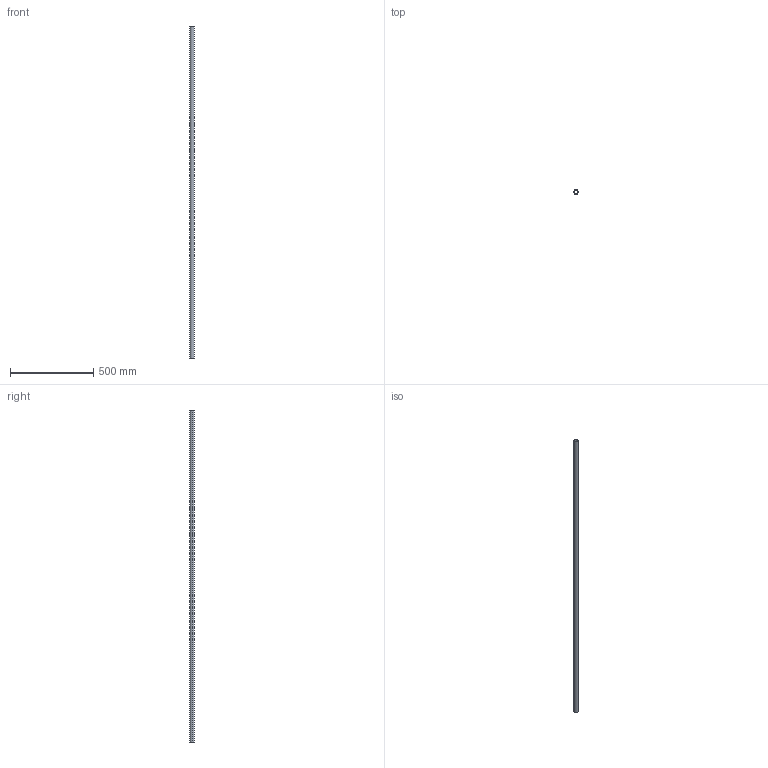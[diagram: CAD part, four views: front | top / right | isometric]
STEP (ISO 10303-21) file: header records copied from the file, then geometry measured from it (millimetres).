
FILE_DESCRIPTION (( 'STEP AP214' ), '1' );
FILE_NAME ('PCT25-2000.STEP', '2022-12-13T01:30:34', ( '' ), ( '' ), 'SwSTEP 2.0', 'SolidWorks 2018', '' );
FILE_SCHEMA (( 'AUTOMOTIVE_DESIGN' ));
Length unit declared in the file: millimetre
Products named in the file (1): PCT25-2000
Bounding box: 25 x 25 x 2000 mm (x, y, z)
Volume: 221482.3 mm3; surface area: 295531.2 mm2
Topology: 1 solids, 1 shells, 6 faces, 12 edges, 8 vertices
Faces by surface type: cylinder 4, plane 2
Entity records: 202 total; most frequent: DIRECTION 34, CARTESIAN_POINT 27, ORIENTED_EDGE 24, AXIS2_PLACEMENT_3D 15, EDGE_CURVE 12, EDGE_LOOP 8, CIRCLE 8, VERTEX_POINT 8
